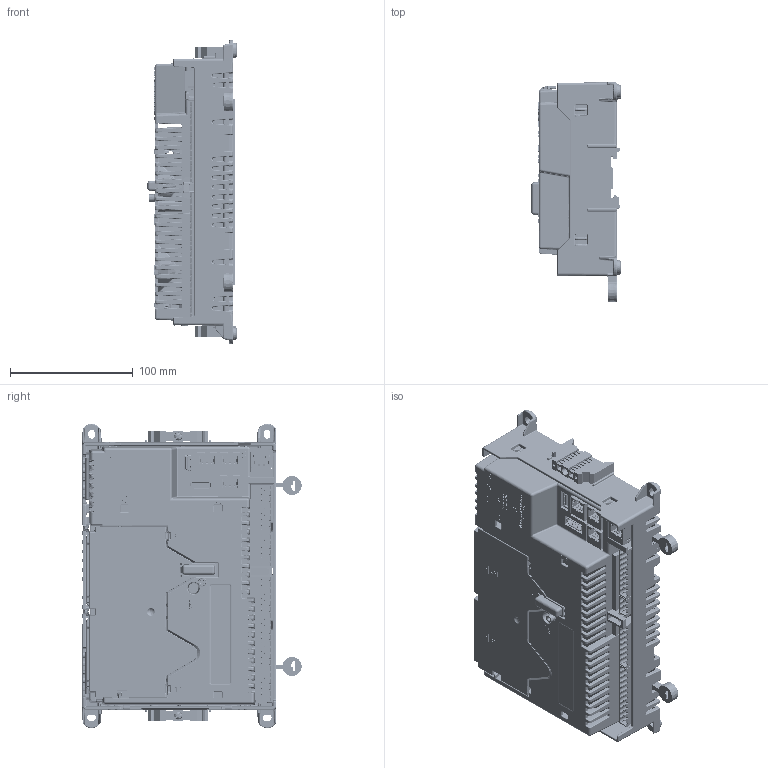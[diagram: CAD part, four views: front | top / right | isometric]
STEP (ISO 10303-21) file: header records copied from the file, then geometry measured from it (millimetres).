
FILE_DESCRIPTION(/* description */ (''),/* implementation_level */ '2;1');
FILE_NAME(/* name */ 'iE250_Basemounted_20240205.stp',/* time_stamp */ '2024-02-05T16:26:15+01:00',/* author */ ('rsj'),/* organization */ (''),/* preprocessor_version */ 'ST-DEVELOPER v19.2',/* originating_system */ 'Autodesk Inventor 2023',/* authorisation */ '');
FILE_SCHEMA (('AUTOMOTIVE_DESIGN { 1 0 10303 214 3 1 1 }'));
Products named in the file (1): Skabsmonteret samling_Simplify_1
Bounding box: 72.7 x 178.69 x 248.04 mm (x, y, z)
Volume: 1041129.4 mm3; surface area: 374393.4 mm2
Topology: 2 solids, 2 shells, 15271 faces, 41176 edges, 25613 vertices
Faces by surface type: plane 7389, cylinder 4335, bspline 2843, sphere 536, torus 98, cone 70
Full cylindrical faces by diameter (mm): 0.399 x2, 0.433 x1, 0.434 x4, 0.9 x2, 1 x2, 1.4 x33, 1.6 x1, 2.8 x27, 3 x1, 3.2 x1, 4.5 x2, 4.6 x2, 6 x1, 6.9 x2, 7 x2, 9 x3
Entity records: 615550 total; most frequent: CARTESIAN_POINT 246920, ORIENTED_EDGE 81774, DIRECTION 70252, EDGE_CURVE 40887, VERTEX_POINT 25609, LINE 25356, VECTOR 25356, AXIS2_PLACEMENT_3D 22448
